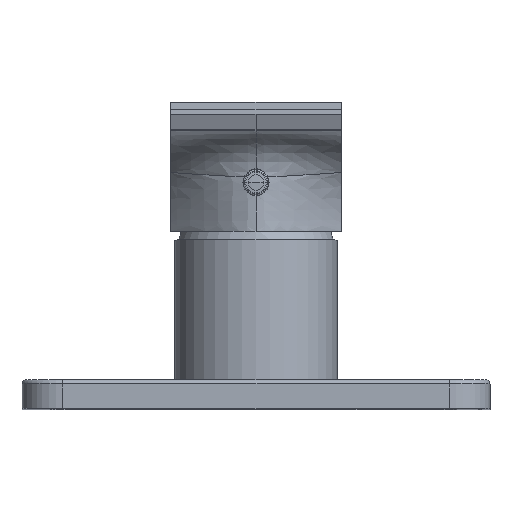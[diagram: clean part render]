
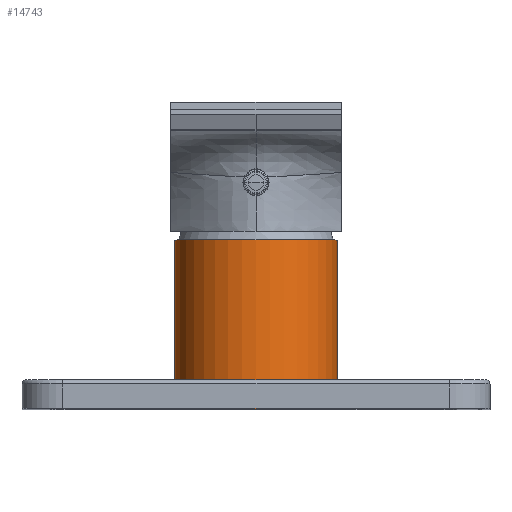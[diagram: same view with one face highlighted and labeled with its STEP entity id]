
A CAD part, top view. The second image highlights one B-rep face of the part: STEP entity #14743.
In plain terms, the highlighted cylindrical face has radius 20 mm (diameter 40 mm), a partial arc.
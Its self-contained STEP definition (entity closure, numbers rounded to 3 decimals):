
#11798=DIRECTION('',(0.,1.,0.));
#11799=VECTOR('',#11798,41.5);
#11800=CARTESIAN_POINT('',(20.,0.,0.));
#11801=LINE('',#11800,#11799);
#11802=CARTESIAN_POINT('',(0.,0.,0.));
#11803=DIRECTION('',(0.,-1.,0.));
#11804=DIRECTION('',(1.,0.,0.));
#11805=AXIS2_PLACEMENT_3D('',#11802,#11803,#11804);
#11807=DIRECTION('',(0.,1.,0.));
#11808=VECTOR('',#11807,41.5);
#11809=CARTESIAN_POINT('',(-20.,0.,0.));
#11810=LINE('',#11809,#11808);
#11816=CARTESIAN_POINT('',(0.,41.5,0.));
#11817=DIRECTION('',(0.,-1.,0.));
#11818=DIRECTION('',(1.,0.,0.));
#11819=AXIS2_PLACEMENT_3D('',#11816,#11817,#11818);
#14597=CARTESIAN_POINT('',(20.,0.,0.));
#14598=CARTESIAN_POINT('',(20.,41.5,0.));
#14599=VERTEX_POINT('',#14597);
#14600=VERTEX_POINT('',#14598);
#14601=CARTESIAN_POINT('',(-20.,0.,0.));
#14602=CARTESIAN_POINT('',(-20.,41.5,0.));
#14603=VERTEX_POINT('',#14601);
#14604=VERTEX_POINT('',#14602);
#14729=CARTESIAN_POINT('',(0.,-2.075,0.));
#14730=DIRECTION('',(0.,1.,0.));
#14731=DIRECTION('',(1.,0.,0.));
#14732=AXIS2_PLACEMENT_3D('',#14729,#14730,#14731);
#14733=CYLINDRICAL_SURFACE('',#14732,20.);
#14735=ORIENTED_EDGE('',*,*,#14734,.F.);
#14736=ORIENTED_EDGE('',*,*,#14716,.T.);
#14738=ORIENTED_EDGE('',*,*,#14737,.T.);
#14740=ORIENTED_EDGE('',*,*,#14739,.F.);
#14741=EDGE_LOOP('',(#14735,#14736,#14738,#14740));
#14742=FACE_OUTER_BOUND('',#14741,.F.);
#14743=ADVANCED_FACE('',(#14742),#14733,.T.);
#11806=CIRCLE('',#11805,20.);
#11820=CIRCLE('',#11819,20.);
#14716=EDGE_CURVE('',#14599,#14603,#11806,.T.);
#14734=EDGE_CURVE('',#14599,#14600,#11801,.T.);
#14737=EDGE_CURVE('',#14603,#14604,#11810,.T.);
#14739=EDGE_CURVE('',#14600,#14604,#11820,.T.);
